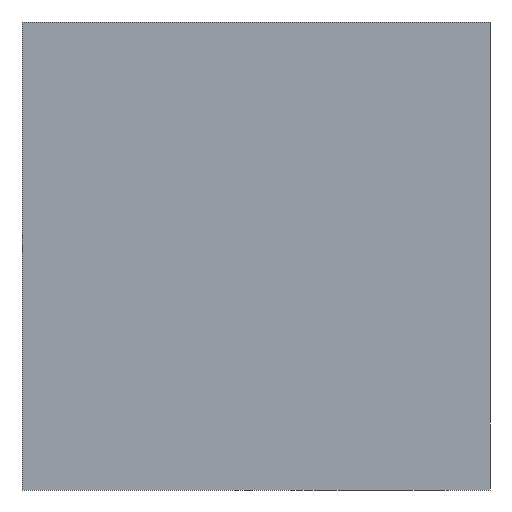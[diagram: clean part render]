
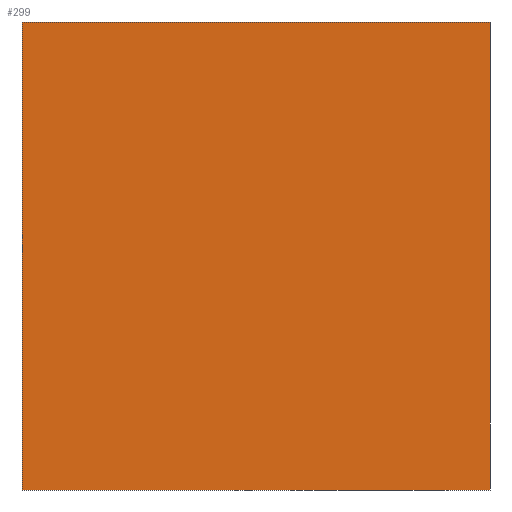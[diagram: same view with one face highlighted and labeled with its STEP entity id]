
A CAD part, left-side view. The second image highlights one B-rep face of the part: STEP entity #299.
In plain terms, the highlighted planar face has unit normal (-1, 0, 0).
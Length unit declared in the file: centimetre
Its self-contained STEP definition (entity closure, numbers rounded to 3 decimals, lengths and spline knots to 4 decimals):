
#3 = CARTESIAN_POINT ( 'NONE',  ( 0., 0., 1000. ) ) ;
#27 = VERTEX_POINT ( 'NONE', #535 ) ;
#48 = VECTOR ( 'NONE', #424, 100. ) ;
#57 = DIRECTION ( 'NONE',  ( 0., -1., 0. ) ) ;
#61 = EDGE_LOOP ( 'NONE', ( #103, #117, #69, #261 ) ) ;
#69 = ORIENTED_EDGE ( 'NONE', *, *, #508, .F. ) ;
#87 = CARTESIAN_POINT ( 'NONE',  ( 0., 1000., 0. ) ) ;
#100 = VERTEX_POINT ( 'NONE', #211 ) ;
#103 = ORIENTED_EDGE ( 'NONE', *, *, #534, .T. ) ;
#116 = FACE_OUTER_BOUND ( 'NONE', #61, .T. ) ;
#117 = ORIENTED_EDGE ( 'NONE', *, *, #154, .F. ) ;
#133 = LINE ( 'NONE', #231, #48 ) ;
#154 = EDGE_CURVE ( 'NONE', #385, #27, #133, .T. ) ;
#180 = DIRECTION ( 'NONE',  ( 0., -1., 0. ) ) ;
#185 = CARTESIAN_POINT ( 'NONE',  ( 0., 1000., 1000. ) ) ;
#211 = CARTESIAN_POINT ( 'NONE',  ( 0., 1000., 1000. ) ) ;
#227 = LINE ( 'NONE', #277, #417 ) ;
#231 = CARTESIAN_POINT ( 'NONE',  ( 0., 0., 1000. ) ) ;
#261 = ORIENTED_EDGE ( 'NONE', *, *, #292, .T. ) ;
#266 = DIRECTION ( 'NONE',  ( 1., 0., 0. ) ) ;
#277 = CARTESIAN_POINT ( 'NONE',  ( 0., 1000., 0. ) ) ;
#292 = EDGE_CURVE ( 'NONE', #100, #409, #363, .T. ) ;
#299 = ADVANCED_FACE ( 'NONE', ( #116 ), #449, .F. ) ;
#324 = DIRECTION ( 'NONE',  ( 0., 0., -1. ) ) ;
#329 = CARTESIAN_POINT ( 'NONE',  ( 0., 1000., 1000. ) ) ;
#353 = LINE ( 'NONE', #185, #470 ) ;
#363 = LINE ( 'NONE', #544, #415 ) ;
#371 = DIRECTION ( 'NONE',  ( 0., 0., -1. ) ) ;
#385 = VERTEX_POINT ( 'NONE', #3 ) ;
#407 = AXIS2_PLACEMENT_3D ( 'NONE', #329, #266, #371 ) ;
#409 = VERTEX_POINT ( 'NONE', #87 ) ;
#415 = VECTOR ( 'NONE', #324, 100. ) ;
#417 = VECTOR ( 'NONE', #57, 100. ) ;
#424 = DIRECTION ( 'NONE',  ( 0., 0., -1. ) ) ;
#449 = PLANE ( 'NONE',  #407 ) ;
#470 = VECTOR ( 'NONE', #180, 100. ) ;
#508 = EDGE_CURVE ( 'NONE', #100, #385, #353, .T. ) ;
#534 = EDGE_CURVE ( 'NONE', #409, #27, #227, .T. ) ;
#535 = CARTESIAN_POINT ( 'NONE',  ( 0., 0., 0. ) ) ;
#544 = CARTESIAN_POINT ( 'NONE',  ( 0., 1000., 1000. ) ) ;
